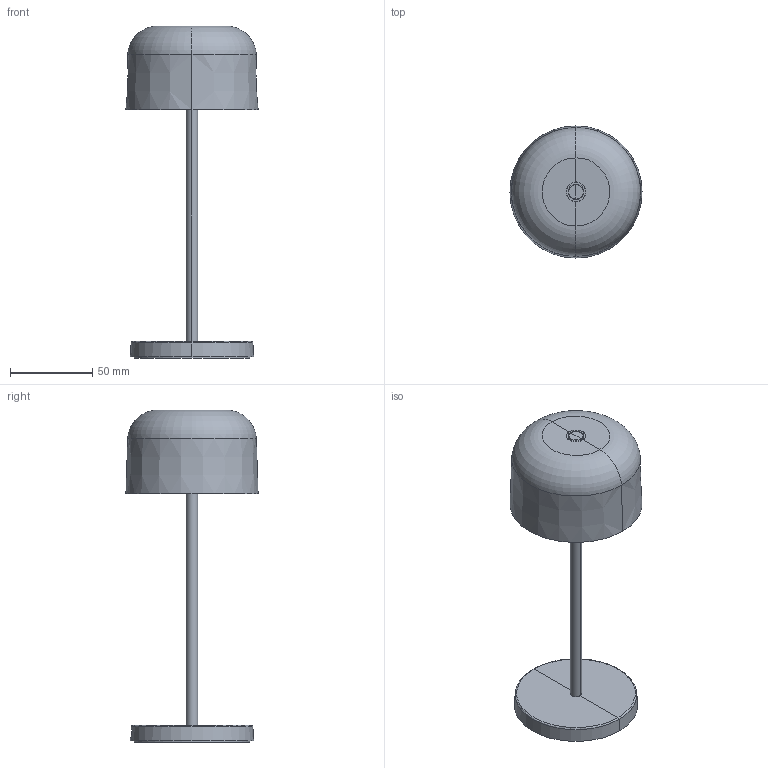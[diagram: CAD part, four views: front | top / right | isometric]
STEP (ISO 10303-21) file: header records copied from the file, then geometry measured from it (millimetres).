
FILE_DESCRIPTION(/* description */ (''),/* implementation_level */ '2;1');
FILE_NAME(/* name */ '71920.step',/* time_stamp */ '2024-09-25T16:39:56+02:00',/* author */ ('RenataManzini'),/* organization */ (''),/* preprocessor_version */ 'ST-DEVELOPER v20',/* originating_system */ 'AutoCAD Mechanical',/* authorisation */ '');
FILE_SCHEMA (('AUTOMOTIVE_DESIGN { 1 0 10303 214 3 1 1 }'));
Length unit declared in the file: millimetre
Products named in the file (2): Product; mavis_200 - pieza-722301-_3D_
Assembly tree (1 placements, depth 2):
  Product
    mavis_200 - pieza-722301-_3D_
Bounding box: 80.41 x 80.41 x 201.97 mm (x, y, z)
Volume: 82328.5 mm3; surface area: 65871.5 mm2
Topology: 4 solids, 4 shells, 101 faces, 248 edges, 159 vertices
Faces by surface type: plane 47, cylinder 26, torus 14, cone 12, bspline 2
Entity records: 3999 total; most frequent: CARTESIAN_POINT 1635, ORIENTED_EDGE 490, DIRECTION 473, EDGE_CURVE 245, AXIS2_PLACEMENT_3D 189, VERTEX_POINT 154, EDGE_LOOP 105, FACE_OUTER_BOUND 101
